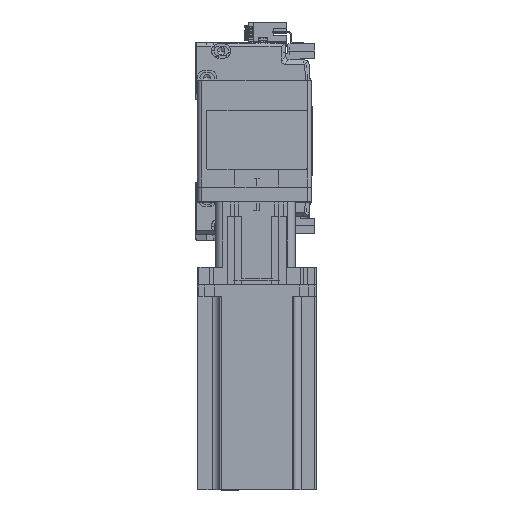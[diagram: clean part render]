
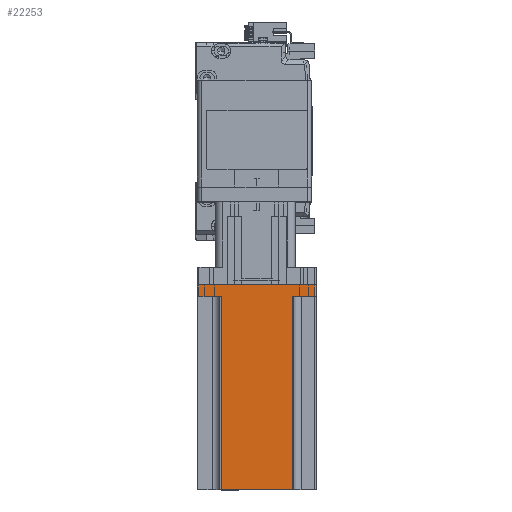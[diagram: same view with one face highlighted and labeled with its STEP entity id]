
A CAD part, top view. The second image highlights one B-rep face of the part: STEP entity #22253.
In plain terms, the highlighted planar face has unit normal (0, 0, 1) as drawn and (0, 1, 0) by its records, which use the part's own axes.
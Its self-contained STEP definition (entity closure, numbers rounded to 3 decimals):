
#230 = VECTOR ( 'NONE', #34037, 1000. ) ;
#835 = VERTEX_POINT ( 'NONE', #16129 ) ;
#1380 = LINE ( 'NONE', #19489, #26934 ) ;
#1673 = VECTOR ( 'NONE', #54110, 1000. ) ;
#1777 = ORIENTED_EDGE ( 'NONE', *, *, #20280, .T. ) ;
#1944 = VECTOR ( 'NONE', #16405, 1000. ) ;
#3683 = DIRECTION ( 'NONE',  ( -1., 0., 0. ) ) ;
#4779 = DIRECTION ( 'NONE',  ( -1., 0., 0. ) ) ;
#6186 = LINE ( 'NONE', #44524, #1673 ) ;
#6403 = VECTOR ( 'NONE', #3683, 1000. ) ;
#7131 = VERTEX_POINT ( 'NONE', #12450 ) ;
#8481 = LINE ( 'NONE', #10000, #60831 ) ;
#8814 = ORIENTED_EDGE ( 'NONE', *, *, #34313, .T. ) ;
#8859 = EDGE_CURVE ( 'NONE', #7131, #50481, #6186, .T. ) ;
#10000 = CARTESIAN_POINT ( 'NONE',  ( 25., 40., 8. ) ) ;
#10281 = CARTESIAN_POINT ( 'NONE',  ( -39., 40., 0. ) ) ;
#10610 = EDGE_CURVE ( 'NONE', #7131, #56827, #52277, .T. ) ;
#10642 = EDGE_CURVE ( 'NONE', #61489, #835, #1380, .T. ) ;
#11133 = EDGE_CURVE ( 'NONE', #16511, #43499, #13008, .T. ) ;
#11540 = CARTESIAN_POINT ( 'NONE',  ( -24., 40., 138.3 ) ) ;
#11907 = ORIENTED_EDGE ( 'NONE', *, *, #10642, .T. ) ;
#12450 = CARTESIAN_POINT ( 'NONE',  ( 24., 40., 138.3 ) ) ;
#13008 = LINE ( 'NONE', #24453, #230 ) ;
#14804 = CARTESIAN_POINT ( 'NONE',  ( -39., 40., 8. ) ) ;
#15133 = LINE ( 'NONE', #19258, #27871 ) ;
#15892 = CARTESIAN_POINT ( 'NONE',  ( 39., 40., 0. ) ) ;
#16129 = CARTESIAN_POINT ( 'NONE',  ( -24., 40., 8. ) ) ;
#16238 = LINE ( 'NONE', #11540, #1944 ) ;
#16405 = DIRECTION ( 'NONE',  ( 0., 0., 1. ) ) ;
#16511 = VERTEX_POINT ( 'NONE', #26049 ) ;
#19258 = CARTESIAN_POINT ( 'NONE',  ( -39., 40., 138.3 ) ) ;
#19489 = CARTESIAN_POINT ( 'NONE',  ( -25., 40., 8. ) ) ;
#20280 = EDGE_CURVE ( 'NONE', #39536, #61489, #15133, .T. ) ;
#22253 = ADVANCED_FACE ( 'NONE', ( #32764 ), #45955, .F. ) ;
#24071 = CARTESIAN_POINT ( 'NONE',  ( 40., 40., 138.3 ) ) ;
#24453 = CARTESIAN_POINT ( 'NONE',  ( 39., 40., 138.3 ) ) ;
#25264 = ORIENTED_EDGE ( 'NONE', *, *, #31708, .T. ) ;
#26049 = CARTESIAN_POINT ( 'NONE',  ( 39., 40., 8. ) ) ;
#26934 = VECTOR ( 'NONE', #52864, 1000. ) ;
#27159 = CARTESIAN_POINT ( 'NONE',  ( 40., 40., 138.3 ) ) ;
#27198 = EDGE_LOOP ( 'NONE', ( #11907, #8814, #41122, #41888, #45220, #50388, #25264, #1777 ) ) ;
#27660 = CARTESIAN_POINT ( 'NONE',  ( -24., 40., 138.3 ) ) ;
#27871 = VECTOR ( 'NONE', #47872, 1000. ) ;
#28408 = VECTOR ( 'NONE', #4779, 1000. ) ;
#31708 = EDGE_CURVE ( 'NONE', #43499, #39536, #44606, .T. ) ;
#31957 = DIRECTION ( 'NONE',  ( 1., 0., 0. ) ) ;
#32764 = FACE_OUTER_BOUND ( 'NONE', #27198, .T. ) ;
#34037 = DIRECTION ( 'NONE',  ( 0., 0., -1. ) ) ;
#34313 = EDGE_CURVE ( 'NONE', #835, #56827, #16238, .T. ) ;
#36971 = CARTESIAN_POINT ( 'NONE',  ( 40., 40., 0. ) ) ;
#38281 = EDGE_CURVE ( 'NONE', #16511, #50481, #8481, .T. ) ;
#38688 = DIRECTION ( 'NONE',  ( -1., 0., 0. ) ) ;
#39536 = VERTEX_POINT ( 'NONE', #10281 ) ;
#41122 = ORIENTED_EDGE ( 'NONE', *, *, #10610, .F. ) ;
#41888 = ORIENTED_EDGE ( 'NONE', *, *, #8859, .T. ) ;
#42583 = AXIS2_PLACEMENT_3D ( 'NONE', #27159, #60504, #31957 ) ;
#43499 = VERTEX_POINT ( 'NONE', #15892 ) ;
#44524 = CARTESIAN_POINT ( 'NONE',  ( 24., 40., 138.3 ) ) ;
#44606 = LINE ( 'NONE', #36971, #6403 ) ;
#45220 = ORIENTED_EDGE ( 'NONE', *, *, #38281, .F. ) ;
#45955 = PLANE ( 'NONE',  #42583 ) ;
#47333 = CARTESIAN_POINT ( 'NONE',  ( 24., 40., 8. ) ) ;
#47872 = DIRECTION ( 'NONE',  ( 0., 0., 1. ) ) ;
#50388 = ORIENTED_EDGE ( 'NONE', *, *, #11133, .T. ) ;
#50481 = VERTEX_POINT ( 'NONE', #47333 ) ;
#52277 = LINE ( 'NONE', #24071, #28408 ) ;
#52864 = DIRECTION ( 'NONE',  ( 1., 0., 0. ) ) ;
#54110 = DIRECTION ( 'NONE',  ( 0., 0., -1. ) ) ;
#56827 = VERTEX_POINT ( 'NONE', #27660 ) ;
#60504 = DIRECTION ( 'NONE',  ( 0., -1., 0. ) ) ;
#60831 = VECTOR ( 'NONE', #38688, 1000. ) ;
#61489 = VERTEX_POINT ( 'NONE', #14804 ) ;
